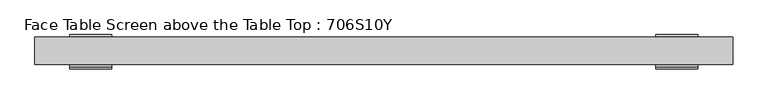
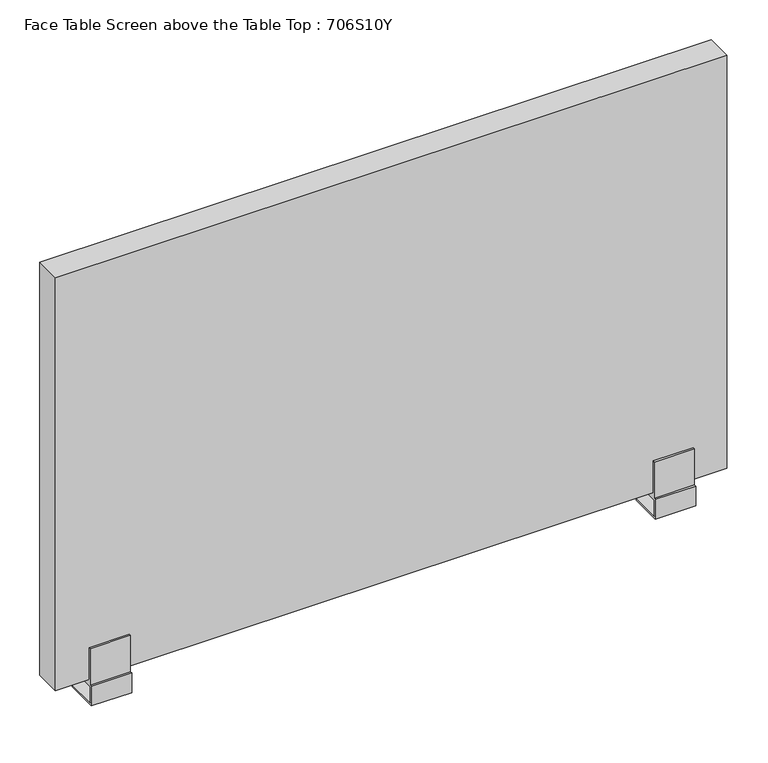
"""IFC4 building model written with IfcOpenShell, lengths in millimetres: furniture geometry, Face Table Screen above the Table Top : 706S10Y."""

import ifcopenshell
import ifcopenshell.guid

model = None  # the IFC model being written
_history = None  # IfcOwnerHistory: only IFC2X3 demands one
_inside = {}  # id of a spatial element -> (the spatial element, [elements in it])
_under = {}  # id of a project, library or spatial element -> (it, [spatial elements below it])
_declared = {}  # id of a project -> (the project, [libraries it declares])
_typed = {}  # id of a type object -> (the type object, [elements of that type])
_made_of = {}  # id of a material, layer set ... -> (it, [elements and type objects made of it])


def new_model(schema):
    """Start an empty IFC model of exactly this schema.

    Asked for "IFC4X3", IfcOpenShell would pick the latest addendum, in which some entities
    have other attributes; the version numbers below select the first issue.
    IFC2X3 requires an IfcOwnerHistory on every rooted entity: one is made here for all.
    """
    global model, _history
    if schema == "IFC4X3":
        model = ifcopenshell.file(schema_version=(4, 3, 0, 0))
    else:
        model = ifcopenshell.file(schema=schema)
    _inside.clear()
    _under.clear()
    _declared.clear()
    _typed.clear()
    _made_of.clear()
    _history = None
    if model.schema == "IFC2X3":
        org = make("IfcOrganization", Name="unknown")
        user = make(
            "IfcPersonAndOrganization",
            ThePerson=make("IfcPerson", FamilyName="unknown"),
            TheOrganization=org,
        )
        app = make(
            "IfcApplication",
            ApplicationDeveloper=org,
            Version="unknown",
            ApplicationFullName="unknown",
            ApplicationIdentifier="unknown",
        )
        _history = make(
            "IfcOwnerHistory",
            OwningUser=user,
            OwningApplication=app,
            ChangeAction="ADDED",
            CreationDate=0,
        )
    return model


def make(cls, **values):
    """One entity of the class cls with the attributes given. An attribute that is None is left unset."""
    return model.create_entity(
        cls, **{name: value for name, value in values.items() if value is not None}
    )


def rooted(cls, **values):
    """An entity with a GlobalId (a new one), such as an element, a storey or a relation."""
    return make(cls, GlobalId=ifcopenshell.guid.new(), OwnerHistory=_history, **values)


def si_unit(unit_type, name, prefix=None):
    """IfcSIUnit, for example si_unit("LENGTHUNIT", "METRE", prefix="MILLI")."""
    return make("IfcSIUnit", UnitType=unit_type, Prefix=prefix, Name=name)


def assignment(units):
    """IfcUnitAssignment: the units of a project."""
    return None if units is None else make("IfcUnitAssignment", Units=units)


def point(xyz):
    """IfcCartesianPoint."""
    return None if xyz is None else make("IfcCartesianPoint", Coordinates=xyz)


def direction(xyz):
    """IfcDirection."""
    return None if xyz is None else make("IfcDirection", DirectionRatios=xyz)


def frame(location, z_axis=None, x_axis=None):
    """IfcAxis2Placement3D, a coordinate frame: its origin and axes. An axis left out is left unset."""
    return make(
        "IfcAxis2Placement3D",
        Location=point(location),
        Axis=direction(z_axis),
        RefDirection=direction(x_axis),
    )


def origin():
    """The frame at (0, 0, 0) with its axes left unset."""
    return frame((0.0, 0.0, 0.0))


def place(relative_to, where):
    """IfcLocalPlacement: puts the frame where relative to a parent placement (None: the world)."""
    return make(
        "IfcLocalPlacement", PlacementRelTo=relative_to, RelativePlacement=where
    )


def context(
    kind, dimensions, precision=None, world=None, true_north=None, identifier=None
):
    """IfcGeometricRepresentationContext, for example the 3D "Model" context."""
    return make(
        "IfcGeometricRepresentationContext",
        ContextIdentifier=identifier,
        ContextType=kind,
        CoordinateSpaceDimension=dimensions,
        Precision=precision,
        WorldCoordinateSystem=world,
        TrueNorth=true_north,
    )


def project(units=None, contexts=None):
    """IfcProject with its units and contexts."""
    return rooted(
        "IfcProject",
        Name="project",
        RepresentationContexts=contexts,
        UnitsInContext=assignment(units),
    )


def spatial(cls, under=None, at=None, **own):
    """A site, building, storey or space (cls), placed at a placement, below another one or the project."""
    s = rooted(cls, ObjectPlacement=at, **own)
    if under is not None:
        _under.setdefault(under.id(), (under, []))[1].append(s)
    return s


def polyline(points):
    """IfcPolyline through the points."""
    return make("IfcPolyline", Points=[point(p) for p in points])


def circle_curve(where, radius):
    """IfcCircle in the frame where."""
    return make("IfcCircle", Position=where, Radius=radius)


def outline(outer, holes=None, kind="AREA"):
    """IfcArbitraryClosedProfileDef: a profile drawn as a closed curve; with holes, ...WithVoids."""
    if holes is None:
        return make("IfcArbitraryClosedProfileDef", ProfileType=kind, OuterCurve=outer)
    return make(
        "IfcArbitraryProfileDefWithVoids",
        ProfileType=kind,
        OuterCurve=outer,
        InnerCurves=holes,
    )


def extrude(swept, where, along, depth):
    """IfcExtrudedAreaSolid: the profile swept, set in the frame where, extruded along a direction by depth."""
    return make(
        "IfcExtrudedAreaSolid",
        SweptArea=swept,
        Position=where,
        ExtrudedDirection=direction(along),
        Depth=depth,
    )


def shape(context_of_items, identifier, shape_type, items):
    """IfcShapeRepresentation: the items that make up one representation, for example the "Body"."""
    return make(
        "IfcShapeRepresentation",
        ContextOfItems=context_of_items,
        RepresentationIdentifier=identifier,
        RepresentationType=shape_type,
        Items=items,
    )


def source(mapping_origin, context_of_items, identifier, shape_type, items):
    """IfcRepresentationMap: a shape defined once, which mapped items show again and again."""
    return make(
        "IfcRepresentationMap",
        MappingOrigin=mapping_origin,
        MappedRepresentation=shape(context_of_items, identifier, shape_type, items),
    )


def transform(
    local_origin,
    x_axis=None,
    y_axis=None,
    z_axis=None,
    scale=None,
    scale2=None,
    scale3=None,
    uniform=True,
):
    """IfcCartesianTransformationOperator3D, or its non-uniform kind. x_axis, y_axis, z_axis: its Axis1, 2, 3."""
    if uniform:
        return make(
            "IfcCartesianTransformationOperator3D",
            Axis1=direction(x_axis),
            Axis2=direction(y_axis),
            LocalOrigin=point(local_origin),
            Scale=scale,
            Axis3=direction(z_axis),
        )
    return make(
        "IfcCartesianTransformationOperator3DnonUniform",
        Axis1=direction(x_axis),
        Axis2=direction(y_axis),
        LocalOrigin=point(local_origin),
        Scale=scale,
        Axis3=direction(z_axis),
        Scale2=scale2,
        Scale3=scale3,
    )


def mapped(mapping_source, mapping_target):
    """IfcMappedItem: shows the shape of a source again, moved by a transform."""
    return make(
        "IfcMappedItem", MappingSource=mapping_source, MappingTarget=mapping_target
    )


def made_of(thing, what):
    """Note that an element or type object is made of a material, layer set ...; save() writes the relation."""
    if what is not None:
        _made_of.setdefault(what.id(), (what, []))[1].append(thing)
    return thing


def element(
    cls,
    number,
    at=None,
    inside=None,
    cuts=None,
    type_object=None,
    material=None,
    context=None,
    identifier="Body",
    shape_type=None,
    held_by="IfcProductDefinitionShape",
    body=None,
    shapes=None,
    **own,
):
    """One element of the class cls, such as IfcWall. Its Tag is "e" and its number.

    at: its placement. inside: the storey or other place that contains it. cuts: it is an
    opening in that element (IfcRelVoidsElement). A single representation is given by context,
    identifier, shape_type and body (its items); several are given by shapes. held_by: the class
    of the entity that holds the representations. save() writes the other relations.
    """
    e = rooted(cls, Tag="e%d" % number, ObjectPlacement=at, **own)
    if body is not None:
        shapes = [shape(context, identifier, shape_type, body)]
    if shapes is not None:
        e.Representation = make(held_by, Representations=shapes)
    if inside is not None:
        _inside.setdefault(inside.id(), (inside, []))[1].append(e)
    if cuts is not None:
        rooted(
            "IfcRelVoidsElement", RelatingBuildingElement=cuts, RelatedOpeningElement=e
        )
    if type_object is not None:
        _typed.setdefault(type_object.id(), (type_object, []))[1].append(e)
    return made_of(e, material)


def aggregate(whole, parts):
    """IfcRelAggregates: a whole, such as a stair, and the parts it consists of."""
    return rooted("IfcRelAggregates", RelatingObject=whole, RelatedObjects=parts)


def save(model, path):
    """Write the relations noted so far, then the file.

    IfcRelAggregates (storeys below a building ...), IfcRelContainedInSpatialStructure (elements
    in a storey), IfcRelDefinesByType, IfcRelAssociatesMaterial and IfcRelDeclares: one each for
    every whole, place, type object, material and project.
    """
    for whole, parts in _under.values():
        aggregate(whole, parts)
    for where, things in _inside.values():
        rooted(
            "IfcRelContainedInSpatialStructure",
            RelatedElements=things,
            RelatingStructure=where,
        )
    for kind, things in _typed.values():
        rooted("IfcRelDefinesByType", RelatedObjects=things, RelatingType=kind)
    for what, things in _made_of.values():
        rooted("IfcRelAssociatesMaterial", RelatedObjects=things, RelatingMaterial=what)
    for by, libraries in _declared.values():
        rooted("IfcRelDeclares", RelatingContext=by, RelatedDefinitions=libraries)
    model.write(path)


def plane_surface(at):
    """IfcPlane: the flat surface through the origin of the frame at, square to its z axis."""
    return make("IfcPlane", Position=at)


def cylinder_surface(at, radius):
    """IfcCylindricalSurface: all points at the distance radius from the z axis of the frame at."""
    return make("IfcCylindricalSurface", Position=at, Radius=radius)


def advanced_brep(points, edges, surfaces, faces):
    """IfcAdvancedBrep: a solid bounded by faces that lie on surfaces and meet in shared edges.

    An edge is (start, end): straight between two places in points (the first is 0);
    or (start, end, curve); or (start, end, curve, False) where it runs against its curve.
    A face is (place in surfaces, loops), or (place, loops, False) where it looks against
    its surface's normal. A loop lists edges by number (the first is 1), with a minus sign
    where the edge is run from its end to its start. The first loop is the outer one.
    """
    corners = [point(p) for p in points]
    vertices = [make("IfcVertexPoint", VertexGeometry=c) for c in corners]
    made = []
    for start, end, *more in edges:
        made.append(
            make(
                "IfcEdgeCurve",
                EdgeStart=vertices[start],
                EdgeEnd=vertices[end],
                EdgeGeometry=more[0] if more else make("IfcPolyline", Points=[corners[start], corners[end]]),
                SameSense=more[1] if len(more) > 1 else True,
            )
        )
    hull = []
    for where, loops, *sense in faces:
        bounds = []
        for j, loop in enumerate(loops):
            ring = [make("IfcOrientedEdge", EdgeElement=made[abs(k) - 1], Orientation=k > 0) for k in loop]
            bounds.append(
                make(
                    "IfcFaceOuterBound" if j == 0 else "IfcFaceBound",
                    Bound=make("IfcEdgeLoop", EdgeList=ring),
                    Orientation=True,
                )
            )
        hull.append(make("IfcAdvancedFace", Bounds=bounds, FaceSurface=surfaces[where], SameSense=sense[0] if sense else True))
    return make("IfcAdvancedBrep", Outer=make("IfcClosedShell", CfsFaces=hull))


def face_table_screen_above_the_table_top_706s10y_24b1e36f(model_context):
    return source(origin(), model_context, "Body", "SolidModel", [
        advanced_brep(
        [(-425.0, 0.0, -39.4406633), (-415.0, 0.0, -39.4406633), (-415.0, 0.0, -28.0), (-425.0, 0.0, -28.0), (-450.0, 23.0, -25.0), (-450.0, -23.0, -25.0), (-390.0, -23.0, -25.0), (-390.0, 23.0, -25.0), (-450.0, -23.0, 0.0), (-450.0, 23.0, -28.0), (-450.0, -26.0, -28.0), (-450.0, -26.0, 3.0), (-450.0, -23.0, 3.0), (-450.0, -23.0, 60.0), (-450.0, -20.0, 60.0), (-450.0, -20.0, 10.0), (-450.0, 20.0, 10.0), (-450.0, 20.0, 60.0), (-450.0, 23.0, 60.0), (-450.0, 23.0, 0.0), (-390.0, -23.0, 0.0), (-390.0, 23.0, 0.0), (-390.0, 23.0, 60.0), (-390.0, 20.0, 60.0), (-390.0, 20.0, 10.0), (-390.0, -20.0, 10.0), (-390.0, -20.0, 60.0), (-390.0, -23.0, 60.0), (-390.0, -23.0, 3.0), (-390.0, -26.0, 3.0), (-390.0, -26.0, -28.0), (-390.0, 23.0, -28.0)],
        [
            (0, 1, circle_curve(frame((-420.0, 0.0, -39.4406633), z_axis=(0.0, 0.0, -1.0), x_axis=(1.0, 0.0, 0.0)), 5.0)),
            (1, 0, circle_curve(frame((-420.0, 0.0, -39.4406633), z_axis=(0.0, 0.0, -1.0), x_axis=(1.0, 0.0, 0.0)), 5.0)),
            (1, 2),
            (2, 3, circle_curve(frame((-420.0, 0.0, -28.0), z_axis=(0.0, 0.0, -1.0), x_axis=(1.0, 0.0, 0.0)), 5.0)),
            (3, 0),
            (3, 2, circle_curve(frame((-420.0, 0.0, -28.0), z_axis=(0.0, 0.0, -1.0), x_axis=(1.0, 0.0, 0.0)), 5.0)),
            (4, 5),
            (5, 6),
            (6, 7),
            (7, 4),
            (8, 5),
            (4, 9),
            (9, 10),
            (10, 11),
            (11, 12),
            (12, 13),
            (13, 14),
            (14, 15),
            (15, 16),
            (16, 17),
            (17, 18),
            (18, 19),
            (19, 8),
            (20, 21),
            (21, 22),
            (22, 23),
            (23, 24),
            (24, 25),
            (25, 26),
            (26, 27),
            (27, 28),
            (28, 29),
            (29, 30),
            (30, 31),
            (31, 7),
            (6, 20),
            (19, 21),
            (20, 8),
            (18, 22),
            (17, 23),
            (16, 24),
            (15, 25),
            (14, 26),
            (13, 27),
            (12, 28),
            (11, 29),
            (10, 30),
            (9, 31),
        ],
        [
            plane_surface(frame((-415.0, 0.0, -39.4406633), z_axis=(0.0, 0.0, -1.0), x_axis=(0.0, -1.0, 0.0))),
            cylinder_surface(frame((-420.0, 0.0, -39.4406633), z_axis=(0.0, 0.0, 1.0), x_axis=(1.0, 0.0, 0.0)), 5.0),
            plane_surface(frame((-415.0, 0.0, -25.0), z_axis=(0.0, 0.0, 1.0), x_axis=(0.0, 1.0, 0.0))),
            plane_surface(frame((-450.0, 23.0, 0.0), z_axis=(-1.0, 0.0, 0.0), x_axis=(0.0, -1.0, 0.0))),
            plane_surface(frame((-390.0, 23.0, 0.0), z_axis=(1.0, 0.0, 0.0), x_axis=(0.0, 1.0, 0.0))),
            plane_surface(frame((-390.0, -23.0, 0.0), z_axis=(0.0, 0.0, -1.0), x_axis=(-1.0, 0.0, 0.0))),
            plane_surface(frame((-390.0, 23.0, 0.0), z_axis=(0.0, 1.0, 0.0), x_axis=(-1.0, 0.0, 0.0))),
            plane_surface(frame((-390.0, 23.0, 60.0), z_axis=(0.0, 0.0, 1.0), x_axis=(-1.0, 0.0, 0.0))),
            plane_surface(frame((-390.0, 20.0, 60.0), z_axis=(0.0, -1.0, 0.0), x_axis=(-1.0, 0.0, 0.0))),
            plane_surface(frame((-390.0, 20.0, 10.0), z_axis=(0.0, 0.0, 1.0), x_axis=(-1.0, 0.0, 0.0))),
            plane_surface(frame((-390.0, -20.0, 10.0), z_axis=(0.0, 1.0, 0.0), x_axis=(-1.0, 0.0, 0.0))),
            plane_surface(frame((-390.0, -20.0, 60.0), z_axis=(0.0, 0.0, 1.0), x_axis=(-1.0, 0.0, 0.0))),
            plane_surface(frame((-390.0, -23.0, 60.0), z_axis=(0.0, -1.0, 0.0), x_axis=(-1.0, 0.0, 0.0))),
            plane_surface(frame((-390.0, -23.0, 3.0), z_axis=(0.0, 0.0, 1.0), x_axis=(-1.0, 0.0, 0.0))),
            plane_surface(frame((-390.0, -26.0, 3.0), z_axis=(0.0, -1.0, 0.0), x_axis=(-1.0, 0.0, 0.0))),
            plane_surface(frame((-390.0, -26.0, -28.0), z_axis=(0.0, 0.0, -1.0), x_axis=(-1.0, 0.0, 0.0))),
            plane_surface(frame((-390.0, 23.0, -28.0), z_axis=(0.0, 1.0, 0.0), x_axis=(-1.0, 0.0, 0.0))),
            plane_surface(frame((-390.0, -23.0, -25.0), z_axis=(0.0, 1.0, 0.0), x_axis=(-1.0, 0.0, 0.0))),
        ],
        [
            (0, [[1, 2]]),
            (1, [[-2, 3, 4, 5]]),
            (1, [[-1, -5, 6, -3]]),
            (2, [[7, 8, 9, 10]]),
            (3, [[11, -7, 12, 13, 14, 15, 16, 17, 18, 19, 20, 21, 22, 23]]),
            (4, [[24, 25, 26, 27, 28, 29, 30, 31, 32, 33, 34, 35, -9, 36]]),
            (5, [[-23, 37, -24, 38]]),
            (6, [[-22, 39, -25, -37]]),
            (7, [[-21, 40, -26, -39]]),
            (8, [[-20, 41, -27, -40]]),
            (9, [[-19, 42, -28, -41]]),
            (10, [[-18, 43, -29, -42]]),
            (11, [[-17, 44, -30, -43]]),
            (12, [[-16, 45, -31, -44]]),
            (13, [[-15, 46, -32, -45]]),
            (14, [[-14, 47, -33, -46]]),
            (15, [[-13, 48, -34, -47], [-4, -6]]),
            (16, [[-12, -10, -35, -48]]),
            (17, [[-11, -38, -36, -8]]),
        ],
    ),
        advanced_brep(
        [(415.0, 0.0, -39.4406633), (425.0, 0.0, -39.4406633), (425.0, 0.0, -28.0), (415.0, 0.0, -28.0), (390.0, 23.0, -25.0), (390.0, -23.0, -25.0), (450.0, -23.0, -25.0), (450.0, 23.0, -25.0), (390.0, -23.0, 0.0), (390.0, 23.0, -28.0), (390.0, -26.0, -28.0), (390.0, -26.0, 3.0), (390.0, -23.0, 3.0), (390.0, -23.0, 60.0), (390.0, -20.0, 60.0), (390.0, -20.0, 10.0), (390.0, 20.0, 10.0), (390.0, 20.0, 60.0), (390.0, 23.0, 60.0), (390.0, 23.0, 0.0), (450.0, -23.0, 0.0), (450.0, 23.0, 0.0), (450.0, 23.0, 60.0), (450.0, 20.0, 60.0), (450.0, 20.0, 10.0), (450.0, -20.0, 10.0), (450.0, -20.0, 60.0), (450.0, -23.0, 60.0), (450.0, -23.0, 3.0), (450.0, -26.0, 3.0), (450.0, -26.0, -28.0), (450.0, 23.0, -28.0)],
        [
            (0, 1, circle_curve(frame((420.0, 0.0, -39.4406633), z_axis=(0.0, 0.0, -1.0), x_axis=(1.0, 0.0, 0.0)), 5.0)),
            (1, 0, circle_curve(frame((420.0, 0.0, -39.4406633), z_axis=(0.0, 0.0, -1.0), x_axis=(1.0, 0.0, 0.0)), 5.0)),
            (1, 2),
            (2, 3, circle_curve(frame((420.0, 0.0, -28.0), z_axis=(0.0, 0.0, -1.0), x_axis=(1.0, 0.0, 0.0)), 5.0)),
            (3, 0),
            (3, 2, circle_curve(frame((420.0, 0.0, -28.0), z_axis=(0.0, 0.0, -1.0), x_axis=(1.0, 0.0, 0.0)), 5.0)),
            (4, 5),
            (5, 6),
            (6, 7),
            (7, 4),
            (8, 5),
            (4, 9),
            (9, 10),
            (10, 11),
            (11, 12),
            (12, 13),
            (13, 14),
            (14, 15),
            (15, 16),
            (16, 17),
            (17, 18),
            (18, 19),
            (19, 8),
            (20, 21),
            (21, 22),
            (22, 23),
            (23, 24),
            (24, 25),
            (25, 26),
            (26, 27),
            (27, 28),
            (28, 29),
            (29, 30),
            (30, 31),
            (31, 7),
            (6, 20),
            (19, 21),
            (20, 8),
            (18, 22),
            (17, 23),
            (16, 24),
            (15, 25),
            (14, 26),
            (13, 27),
            (12, 28),
            (11, 29),
            (10, 30),
            (9, 31),
        ],
        [
            plane_surface(frame((425.0, 0.0, -39.4406633), z_axis=(0.0, 0.0, -1.0), x_axis=(0.0, -1.0, 0.0))),
            cylinder_surface(frame((420.0, 0.0, -39.4406633), z_axis=(0.0, 0.0, 1.0), x_axis=(1.0, 0.0, 0.0)), 5.0),
            plane_surface(frame((425.0, 0.0, -25.0), z_axis=(0.0, 0.0, 1.0), x_axis=(0.0, 1.0, 0.0))),
            plane_surface(frame((390.0, 23.0, 0.0), z_axis=(-1.0, 0.0, 0.0), x_axis=(0.0, -1.0, 0.0))),
            plane_surface(frame((450.0, 23.0, 0.0), z_axis=(1.0, 0.0, 0.0), x_axis=(0.0, 1.0, 0.0))),
            plane_surface(frame((450.0, -23.0, 0.0), z_axis=(0.0, 0.0, -1.0), x_axis=(-1.0, 0.0, 0.0))),
            plane_surface(frame((450.0, 23.0, 0.0), z_axis=(0.0, 1.0, 0.0), x_axis=(-1.0, 0.0, 0.0))),
            plane_surface(frame((450.0, 23.0, 60.0), z_axis=(0.0, 0.0, 1.0), x_axis=(-1.0, 0.0, 0.0))),
            plane_surface(frame((450.0, 20.0, 60.0), z_axis=(0.0, -1.0, 0.0), x_axis=(-1.0, 0.0, 0.0))),
            plane_surface(frame((450.0, 20.0, 10.0), z_axis=(0.0, 0.0, 1.0), x_axis=(-1.0, 0.0, 0.0))),
            plane_surface(frame((450.0, -20.0, 10.0), z_axis=(0.0, 1.0, 0.0), x_axis=(-1.0, 0.0, 0.0))),
            plane_surface(frame((450.0, -20.0, 60.0), z_axis=(0.0, 0.0, 1.0), x_axis=(-1.0, 0.0, 0.0))),
            plane_surface(frame((450.0, -23.0, 60.0), z_axis=(0.0, -1.0, 0.0), x_axis=(-1.0, 0.0, 0.0))),
            plane_surface(frame((450.0, -23.0, 3.0), z_axis=(0.0, 0.0, 1.0), x_axis=(-1.0, 0.0, 0.0))),
            plane_surface(frame((450.0, -26.0, 3.0), z_axis=(0.0, -1.0, 0.0), x_axis=(-1.0, 0.0, 0.0))),
            plane_surface(frame((450.0, -26.0, -28.0), z_axis=(0.0, 0.0, -1.0), x_axis=(-1.0, 0.0, 0.0))),
            plane_surface(frame((450.0, 23.0, -28.0), z_axis=(0.0, 1.0, 0.0), x_axis=(-1.0, 0.0, 0.0))),
            plane_surface(frame((450.0, -23.0, -25.0), z_axis=(0.0, 1.0, 0.0), x_axis=(-1.0, 0.0, 0.0))),
        ],
        [
            (0, [[1, 2]]),
            (1, [[-2, 3, 4, 5]]),
            (1, [[-1, -5, 6, -3]]),
            (2, [[7, 8, 9, 10]]),
            (3, [[11, -7, 12, 13, 14, 15, 16, 17, 18, 19, 20, 21, 22, 23]]),
            (4, [[24, 25, 26, 27, 28, 29, 30, 31, 32, 33, 34, 35, -9, 36]]),
            (5, [[-23, 37, -24, 38]]),
            (6, [[-22, 39, -25, -37]]),
            (7, [[-21, 40, -26, -39]]),
            (8, [[-20, 41, -27, -40]]),
            (9, [[-19, 42, -28, -41]]),
            (10, [[-18, 43, -29, -42]]),
            (11, [[-17, 44, -30, -43]]),
            (12, [[-16, 45, -31, -44]]),
            (13, [[-15, 46, -32, -45]]),
            (14, [[-14, 47, -33, -46]]),
            (15, [[-13, 48, -34, -47], [-4, -6]]),
            (16, [[-12, -10, -35, -48]]),
            (17, [[-11, -38, -36, -8]]),
        ],
    ),
        extrude(outline(polyline([(500.0, -20.0), (-500.0, -20.0), (-500.0, 20.0), (500.0, 20.0), (500.0, -20.0)])), frame((0.0, 0.0, 10.0), z_axis=(0.0, 0.0, 1.0), x_axis=(1.0, 0.0, 0.0)), (0.0, 0.0, 1.0), 650.0),
    ])


if __name__ == "__main__":
    model = new_model("IFC4")
    model_context = context("Model", 3, world=origin())
    ifc_project = project(units=[si_unit("LENGTHUNIT", "METRE", prefix="MILLI")], contexts=[model_context])
    site = spatial("IfcSite", under=ifc_project)
    building = spatial("IfcBuilding", under=site)
    placement = place(None, origin())
    face_table_screen_above_the_table_top_706s10y_shape = face_table_screen_above_the_table_top_706s10y_24b1e36f(model_context)
    element("IfcFurniture", 1, ObjectType="Face Table Screen above the Table Top : 706S10Y", at=placement, inside=building, context=model_context, shape_type="MappedRepresentation", body=[
        mapped(face_table_screen_above_the_table_top_706s10y_shape, transform((0.0, 0.0, 0.0), x_axis=(1.0, 0.0, 0.0), y_axis=(0.0, 1.0, 0.0), z_axis=(0.0, 0.0, 1.0))),
    ])
    save(model, "model.ifc")
